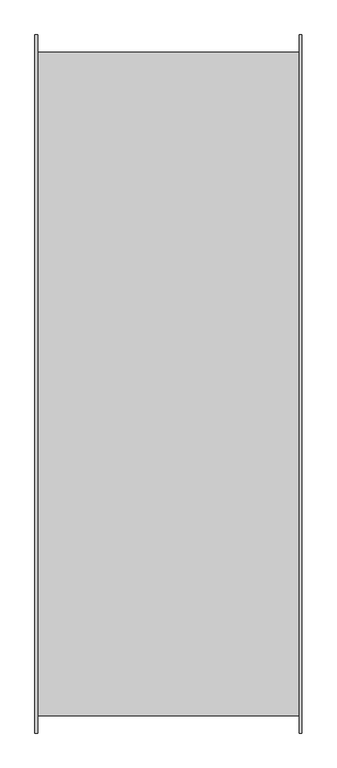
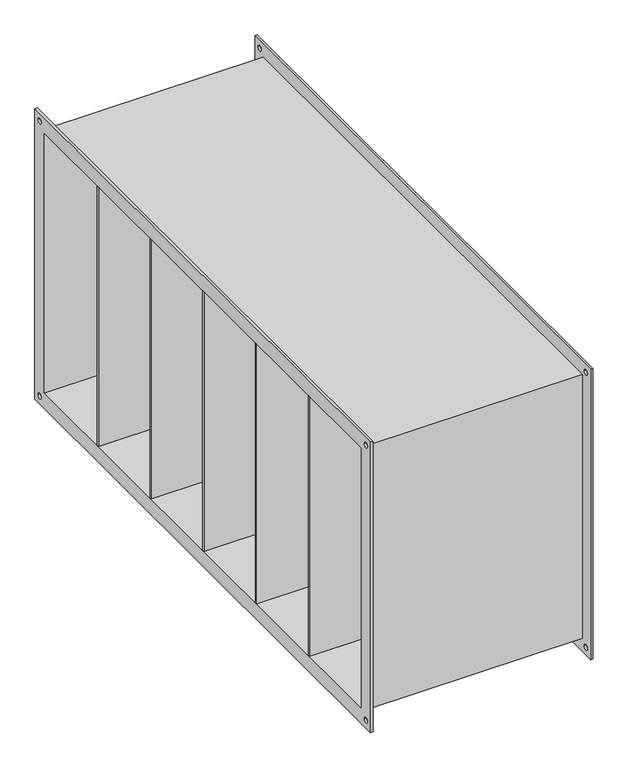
"""IFC4 building model written with IfcOpenShell, lengths in millimetres: damper geometry, СВ_ФильтрКарманныйУкороченный_КанальныйПрямоугольный_200-1000_SFPKU : SFPKU-1000x500."""

from ifc_helpers import new_model, si_unit, frame, origin, place, context, project, spatial, polyline, circle_curve, outline, extrude, source, transform, mapped, element, save
from ifc_brep_helpers import plane_surface, revolved_surface, advanced_brep


def damper_f43ba095(model_context):
    return source(origin(), model_context, "Body", "SolidModel", [
        extrude(outline(polyline([(202.5, 333.3333333), (202.5, 329.3333333), (-202.5, 329.3333333), (-202.5, 333.3333333), (202.5, 333.3333333)])), frame((0.0, 0.0, -250.0), z_axis=(0.0, 0.0, 1.0), x_axis=(1.0, 0.0, 0.0)), (0.0, 0.0, 1.0), 500.0),
        extrude(outline(polyline([(202.5, 166.6666667), (202.5, 162.6666667), (-202.5, 162.6666667), (-202.5, 166.6666667), (202.5, 166.6666667)])), frame((0.0, 0.0, -250.0), z_axis=(0.0, 0.0, 1.0), x_axis=(1.0, 0.0, 0.0)), (0.0, 0.0, 1.0), 500.0),
        extrude(outline(polyline([(202.5, 0.0), (202.5, -4.0), (-202.5, -4.0), (-202.5, 0.0), (202.5, 0.0)])), frame((0.0, 0.0, -250.0), z_axis=(0.0, 0.0, 1.0), x_axis=(1.0, 0.0, 0.0)), (0.0, 0.0, 1.0), 500.0),
        extrude(outline(polyline([(202.5, -166.6666667), (202.5, -170.6666667), (-202.5, -170.6666667), (-202.5, -166.6666667), (202.5, -166.6666667)])), frame((0.0, 0.0, -250.0), z_axis=(0.0, 0.0, 1.0), x_axis=(1.0, 0.0, 0.0)), (0.0, 0.0, 1.0), 500.0),
        extrude(outline(polyline([(202.5, -333.3333333), (202.5, -337.3333333), (-202.5, -337.3333333), (-202.5, -333.3333333), (202.5, -333.3333333)])), frame((0.0, 0.0, -250.0), z_axis=(0.0, 0.0, 1.0), x_axis=(1.0, 0.0, 0.0)), (0.0, 0.0, 1.0), 500.0),
        advanced_brep(
        [(198.5, -504.0, 254.0), (-198.5, -504.0, 254.0), (-198.5, -504.0, -254.0), (198.5, -504.0, -254.0), (-198.5, 504.0, -254.0), (198.5, 504.0, -254.0), (-198.5, 504.0, 254.0), (198.5, 504.0, 254.0), (-202.5, -530.0, 280.0), (-202.5, 530.0, 280.0), (-202.5, 530.0, -280.0), (-202.5, -530.0, -280.0), (-202.5, -500.0, 250.0), (-202.5, -500.0, -250.0), (-202.5, 500.0, -250.0), (-202.5, 500.0, 250.0), (-202.5, 510.0, 265.0), (-202.5, 520.0, 265.0), (-202.5, -520.0, 265.0), (-202.5, -510.0, 265.0), (-202.5, -520.0, -265.0), (-202.5, -510.0, -265.0), (-202.5, 510.0, -265.0), (-202.5, 520.0, -265.0), (-198.5, -530.0, 280.0), (-198.5, -530.0, -280.0), (-198.5, 530.0, -280.0), (-198.5, 530.0, 280.0), (-198.5, 520.0, 265.0), (-198.5, 510.0, 265.0), (-198.5, -510.0, 265.0), (-198.5, -520.0, 265.0), (-198.5, -510.0, -265.0), (-198.5, -520.0, -265.0), (-198.5, 520.0, -265.0), (-198.5, 510.0, -265.0), (202.5, 500.0, 250.0), (202.5, -500.0, 250.0), (202.5, 500.0, -250.0), (202.5, -500.0, -250.0), (198.5, 530.0, 280.0), (198.5, 530.0, -280.0), (198.5, -530.0, -280.0), (198.5, -530.0, 280.0), (198.5, 510.0, 265.0), (198.5, 520.0, 265.0), (198.5, -520.0, 265.0), (198.5, -510.0, 265.0), (198.5, -520.0, -265.0), (198.5, -510.0, -265.0), (198.5, 510.0, -265.0), (198.5, 520.0, -265.0), (202.5, 530.0, 280.0), (202.5, -530.0, 280.0), (202.5, -530.0, -280.0), (202.5, 530.0, -280.0), (202.5, 520.0, 265.0), (202.5, 510.0, 265.0), (202.5, -510.0, 265.0), (202.5, -520.0, 265.0), (202.5, -510.0, -265.0), (202.5, -520.0, -265.0), (202.5, 520.0, -265.0), (202.5, 510.0, -265.0)],
        [
            (0, 1),
            (1, 2),
            (2, 3),
            (3, 0),
            (2, 4),
            (4, 5),
            (5, 3),
            (4, 6),
            (6, 7),
            (7, 5),
            (0, 7),
            (6, 1),
            (8, 9),
            (9, 10),
            (10, 11),
            (11, 8),
            (12, 13),
            (13, 14),
            (14, 15),
            (15, 12),
            (16, 17, circle_curve(frame((-202.5, 515.0, 265.0), z_axis=(1.0, 0.0, 0.0), x_axis=(0.0, 1.0, 0.0)), 5.0)),
            (17, 16, circle_curve(frame((-202.5, 515.0, 265.0), z_axis=(1.0, 0.0, 0.0), x_axis=(0.0, 1.0, 0.0)), 5.0)),
            (18, 19, circle_curve(frame((-202.5, -515.0, 265.0), z_axis=(1.0, 0.0, 0.0), x_axis=(0.0, 1.0, 0.0)), 5.0)),
            (19, 18, circle_curve(frame((-202.5, -515.0, 265.0), z_axis=(1.0, 0.0, 0.0), x_axis=(0.0, 1.0, 0.0)), 5.0)),
            (20, 21, circle_curve(frame((-202.5, -515.0, -265.0), z_axis=(1.0, 0.0, 0.0), x_axis=(0.0, 1.0, 0.0)), 5.0)),
            (21, 20, circle_curve(frame((-202.5, -515.0, -265.0), z_axis=(1.0, 0.0, 0.0), x_axis=(0.0, 1.0, 0.0)), 5.0)),
            (22, 23, circle_curve(frame((-202.5, 515.0, -265.0), z_axis=(1.0, 0.0, 0.0), x_axis=(0.0, 1.0, 0.0)), 5.0)),
            (23, 22, circle_curve(frame((-202.5, 515.0, -265.0), z_axis=(1.0, 0.0, 0.0), x_axis=(0.0, 1.0, 0.0)), 5.0)),
            (24, 25),
            (25, 26),
            (26, 27),
            (27, 24),
            (28, 29, circle_curve(frame((-198.5, 515.0, 265.0), z_axis=(-1.0, 0.0, 0.0), x_axis=(0.0, 1.0, 0.0)), 5.0)),
            (29, 28, circle_curve(frame((-198.5, 515.0, 265.0), z_axis=(-1.0, 0.0, 0.0), x_axis=(0.0, 1.0, 0.0)), 5.0)),
            (30, 31, circle_curve(frame((-198.5, -515.0, 265.0), z_axis=(-1.0, 0.0, 0.0), x_axis=(0.0, 1.0, 0.0)), 5.0)),
            (31, 30, circle_curve(frame((-198.5, -515.0, 265.0), z_axis=(-1.0, 0.0, 0.0), x_axis=(0.0, 1.0, 0.0)), 5.0)),
            (32, 33, circle_curve(frame((-198.5, -515.0, -265.0), z_axis=(-1.0, 0.0, 0.0), x_axis=(0.0, 1.0, 0.0)), 5.0)),
            (33, 32, circle_curve(frame((-198.5, -515.0, -265.0), z_axis=(-1.0, 0.0, 0.0), x_axis=(0.0, 1.0, 0.0)), 5.0)),
            (34, 35, circle_curve(frame((-198.5, 515.0, -265.0), z_axis=(-1.0, 0.0, 0.0), x_axis=(0.0, 1.0, 0.0)), 5.0)),
            (35, 34, circle_curve(frame((-198.5, 515.0, -265.0), z_axis=(-1.0, 0.0, 0.0), x_axis=(0.0, 1.0, 0.0)), 5.0)),
            (11, 25),
            (24, 8),
            (10, 26),
            (9, 27),
            (15, 36),
            (36, 37),
            (37, 12),
            (14, 38),
            (38, 36),
            (13, 39),
            (39, 38),
            (37, 39),
            (40, 41),
            (41, 42),
            (42, 43),
            (43, 40),
            (44, 45, circle_curve(frame((198.5, 515.0, 265.0), z_axis=(1.0, 0.0, 0.0), x_axis=(0.0, 1.0, 0.0)), 5.0)),
            (45, 44, circle_curve(frame((198.5, 515.0, 265.0), z_axis=(1.0, 0.0, 0.0), x_axis=(0.0, 1.0, 0.0)), 5.0)),
            (46, 47, circle_curve(frame((198.5, -515.0, 265.0), z_axis=(1.0, 0.0, 0.0), x_axis=(0.0, 1.0, 0.0)), 5.0)),
            (47, 46, circle_curve(frame((198.5, -515.0, 265.0), z_axis=(1.0, 0.0, 0.0), x_axis=(0.0, 1.0, 0.0)), 5.0)),
            (48, 49, circle_curve(frame((198.5, -515.0, -265.0), z_axis=(1.0, 0.0, 0.0), x_axis=(0.0, 1.0, 0.0)), 5.0)),
            (49, 48, circle_curve(frame((198.5, -515.0, -265.0), z_axis=(1.0, 0.0, 0.0), x_axis=(0.0, 1.0, 0.0)), 5.0)),
            (50, 51, circle_curve(frame((198.5, 515.0, -265.0), z_axis=(1.0, 0.0, 0.0), x_axis=(0.0, 1.0, 0.0)), 5.0)),
            (51, 50, circle_curve(frame((198.5, 515.0, -265.0), z_axis=(1.0, 0.0, 0.0), x_axis=(0.0, 1.0, 0.0)), 5.0)),
            (52, 53),
            (53, 54),
            (54, 55),
            (55, 52),
            (56, 57, circle_curve(frame((202.5, 515.0, 265.0), z_axis=(-1.0, 0.0, 0.0), x_axis=(0.0, 1.0, 0.0)), 5.0)),
            (57, 56, circle_curve(frame((202.5, 515.0, 265.0), z_axis=(-1.0, 0.0, 0.0), x_axis=(0.0, 1.0, 0.0)), 5.0)),
            (58, 59, circle_curve(frame((202.5, -515.0, 265.0), z_axis=(-1.0, 0.0, 0.0), x_axis=(0.0, 1.0, 0.0)), 5.0)),
            (59, 58, circle_curve(frame((202.5, -515.0, 265.0), z_axis=(-1.0, 0.0, 0.0), x_axis=(0.0, 1.0, 0.0)), 5.0)),
            (60, 61, circle_curve(frame((202.5, -515.0, -265.0), z_axis=(-1.0, 0.0, 0.0), x_axis=(0.0, 1.0, 0.0)), 5.0)),
            (61, 60, circle_curve(frame((202.5, -515.0, -265.0), z_axis=(-1.0, 0.0, 0.0), x_axis=(0.0, 1.0, 0.0)), 5.0)),
            (62, 63, circle_curve(frame((202.5, 515.0, -265.0), z_axis=(-1.0, 0.0, 0.0), x_axis=(0.0, 1.0, 0.0)), 5.0)),
            (63, 62, circle_curve(frame((202.5, 515.0, -265.0), z_axis=(-1.0, 0.0, 0.0), x_axis=(0.0, 1.0, 0.0)), 5.0)),
            (43, 53),
            (52, 40),
            (42, 54),
            (41, 55),
            (16, 29),
            (28, 17),
            (44, 57),
            (56, 45),
            (18, 31),
            (30, 19),
            (46, 59),
            (58, 47),
            (20, 33),
            (32, 21),
            (48, 61),
            (60, 49),
            (22, 35),
            (34, 23),
            (50, 63),
            (62, 51),
        ],
        [
            plane_surface(frame((198.5, -504.0, 254.0), z_axis=(0.0, -1.0, 0.0), x_axis=(-1.0, 0.0, 0.0))),
            plane_surface(frame((198.5, -504.0, -254.0), z_axis=(0.0, 0.0, -1.0), x_axis=(-1.0, 0.0, 0.0))),
            plane_surface(frame((198.5, 504.0, -254.0), z_axis=(0.0, 1.0, 0.0), x_axis=(-1.0, 0.0, 0.0))),
            plane_surface(frame((198.5, 504.0, 254.0), z_axis=(0.0, 0.0, 1.0), x_axis=(-1.0, 0.0, 0.0))),
            plane_surface(frame((-202.5, -530.0, 280.0), z_axis=(-1.0, 0.0, 0.0), x_axis=(0.0, 0.0, 1.0))),
            plane_surface(frame((-198.5, -530.0, 280.0), z_axis=(1.0, 0.0, 0.0), x_axis=(0.0, 0.0, -1.0))),
            plane_surface(frame((-198.5, -530.0, 280.0), z_axis=(0.0, -1.0, 0.0), x_axis=(-1.0, 0.0, 0.0))),
            plane_surface(frame((-198.5, -530.0, -280.0), z_axis=(0.0, 0.0, -1.0), x_axis=(-1.0, 0.0, 0.0))),
            plane_surface(frame((-198.5, 530.0, -280.0), z_axis=(0.0, 1.0, 0.0), x_axis=(-1.0, 0.0, 0.0))),
            plane_surface(frame((-198.5, 530.0, 280.0), z_axis=(0.0, 0.0, 1.0), x_axis=(-1.0, 0.0, 0.0))),
            plane_surface(frame((-198.5, -500.0, 250.0), z_axis=(0.0, 0.0, -1.0), x_axis=(-1.0, 0.0, 0.0))),
            plane_surface(frame((-198.5, 500.0, 250.0), z_axis=(0.0, -1.0, 0.0), x_axis=(-1.0, 0.0, 0.0))),
            plane_surface(frame((-198.5, 500.0, -250.0), z_axis=(0.0, 0.0, 1.0), x_axis=(-1.0, 0.0, 0.0))),
            plane_surface(frame((-198.5, -500.0, -250.0), z_axis=(0.0, 1.0, 0.0), x_axis=(-1.0, 0.0, 0.0))),
            plane_surface(frame((198.5, 500.0, -250.0), z_axis=(-1.0, 0.0, 0.0), x_axis=(0.0, 0.0, 1.0))),
            plane_surface(frame((202.5, 500.0, -250.0), z_axis=(1.0, 0.0, 0.0), x_axis=(0.0, 0.0, -1.0))),
            plane_surface(frame((202.5, 530.0, 280.0), z_axis=(0.0, 0.0, 1.0), x_axis=(-1.0, 0.0, 0.0))),
            plane_surface(frame((202.5, -530.0, 280.0), z_axis=(0.0, -1.0, 0.0), x_axis=(-1.0, 0.0, 0.0))),
            plane_surface(frame((202.5, -530.0, -280.0), z_axis=(0.0, 0.0, -1.0), x_axis=(-1.0, 0.0, 0.0))),
            plane_surface(frame((202.5, 530.0, -280.0), z_axis=(0.0, 1.0, 0.0), x_axis=(-1.0, 0.0, 0.0))),
            revolved_surface(polyline([(-198.5, 520.0, 265.0), (-202.5, 520.0, 265.0)]), (-202.5, 515.0, 265.0), (1.0, 0.0, 0.0)),
            revolved_surface(polyline([(202.5, 520.0, 265.0), (198.5, 520.0, 265.0)]), (-202.5, 515.0, 265.0), (1.0, 0.0, 0.0)),
            revolved_surface(polyline([(-198.5, -510.0, 265.0), (-202.5, -510.0, 265.0)]), (0.0, -515.0, 265.0), (1.0, 0.0, 0.0)),
            revolved_surface(polyline([(202.5, -510.0, 265.0), (198.5, -510.0, 265.0)]), (0.0, -515.0, 265.0), (1.0, 0.0, 0.0)),
            revolved_surface(polyline([(-198.5, -510.0, -265.0), (-202.5, -510.0, -265.0)]), (0.0, -515.0, -265.0), (1.0, 0.0, 0.0)),
            revolved_surface(polyline([(202.5, -510.0, -265.0), (198.5, -510.0, -265.0)]), (0.0, -515.0, -265.0), (1.0, 0.0, 0.0)),
            revolved_surface(polyline([(-198.5, 520.0, -265.0), (-202.5, 520.0, -265.0)]), (0.0, 515.0, -265.0), (1.0, 0.0, 0.0)),
            revolved_surface(polyline([(202.5, 520.0, -265.0), (198.5, 520.0, -265.0)]), (0.0, 515.0, -265.0), (1.0, 0.0, 0.0)),
        ],
        [
            (0, [[1, 2, 3, 4]]),
            (1, [[-3, 5, 6, 7]]),
            (2, [[-6, 8, 9, 10]]),
            (3, [[-1, 11, -9, 12]]),
            (4, [[13, 14, 15, 16], [17, 18, 19, 20], [21, 22], [23, 24], [25, 26], [27, 28]]),
            (5, [[29, 30, 31, 32], [-2, -12, -8, -5], [33, 34], [35, 36], [37, 38], [39, 40]]),
            (6, [[-16, 41, -29, 42]]),
            (7, [[-15, 43, -30, -41]]),
            (8, [[-14, 44, -31, -43]]),
            (9, [[-13, -42, -32, -44]]),
            (10, [[-20, 45, 46, 47]]),
            (11, [[-45, -19, 48, 49]]),
            (12, [[-48, -18, 50, 51]]),
            (13, [[-50, -17, -47, 52]]),
            (14, [[53, 54, 55, 56], [-4, -7, -10, -11], [57, 58], [59, 60], [61, 62], [63, 64]]),
            (15, [[65, 66, 67, 68], [-49, -51, -52, -46], [69, 70], [71, 72], [73, 74], [75, 76]]),
            (16, [[-56, 77, -65, 78]]),
            (17, [[-55, 79, -66, -77]]),
            (18, [[-54, 80, -67, -79]]),
            (19, [[-53, -78, -68, -80]]),
            (20, [[81, -33, 82, -21]]),
            (21, [[83, -69, 84, -57]]),
            (20, [[-81, -22, -82, -34]]),
            (21, [[-83, -58, -84, -70]]),
            (22, [[85, -35, 86, -23]]),
            (23, [[87, -71, 88, -59]]),
            (22, [[-85, -24, -86, -36]]),
            (23, [[-87, -60, -88, -72]]),
            (24, [[89, -37, 90, -25]]),
            (25, [[91, -73, 92, -61]]),
            (24, [[-89, -26, -90, -38]]),
            (25, [[-91, -62, -92, -74]]),
            (26, [[93, -39, 94, -27]]),
            (27, [[95, -75, 96, -63]]),
            (26, [[-93, -28, -94, -40]]),
            (27, [[-95, -64, -96, -76]]),
        ],
    ),
    ])


if __name__ == "__main__":
    model = new_model("IFC4")
    model_context = context("Model", 3, world=origin())
    ifc_project = project(units=[si_unit("LENGTHUNIT", "METRE", prefix="MILLI")], contexts=[model_context])
    site = spatial("IfcSite", under=ifc_project)
    building = spatial("IfcBuilding", under=site)
    placement = place(None, origin())
    damper_shape = damper_f43ba095(model_context)
    element("IfcDamper", 1, ObjectType="СВ_ФильтрКарманныйУкороченный_КанальныйПрямоугольный_200-1000_SFPKU : SFPKU-1000x500", at=placement, inside=building, context=model_context, shape_type="MappedRepresentation", body=[
        mapped(damper_shape, transform((0.0, 0.0, 0.0), x_axis=(1.0, 0.0, 0.0), y_axis=(0.0, 1.0, 0.0), z_axis=(0.0, 0.0, 1.0))),
    ])
    save(model, "model.ifc")
